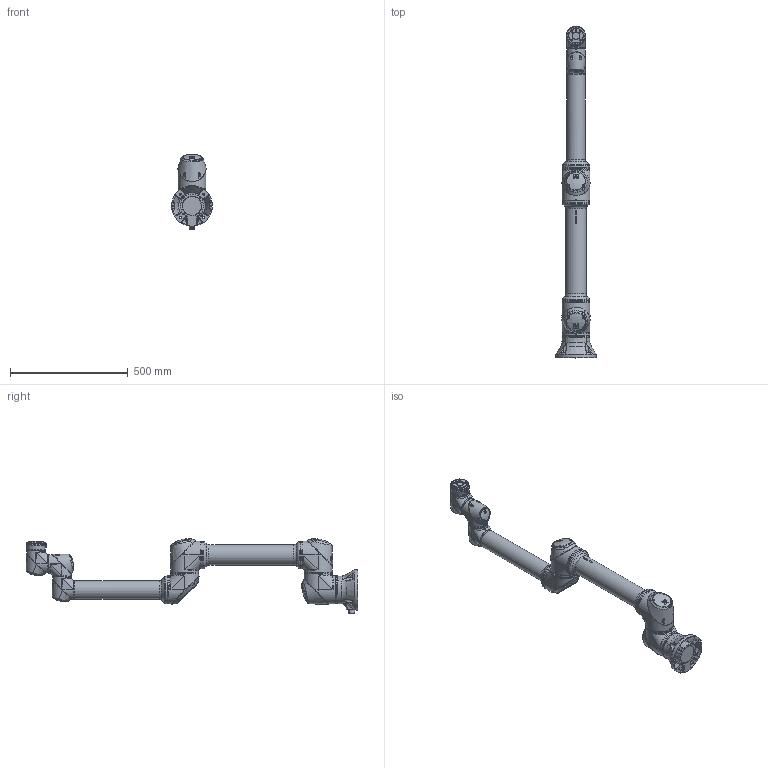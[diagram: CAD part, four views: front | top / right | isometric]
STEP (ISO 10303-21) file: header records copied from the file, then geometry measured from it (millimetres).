
FILE_DESCRIPTION(/* description */ (''),/* implementation_level */ '2;1');
FILE_NAME(/* name */ 'RB3-1200E.stp',/* time_stamp */ '2023-01-25T18:36:43+09:00',/* author */ ('ajm08'),/* organization */ (''),/* preprocessor_version */ 'ST-DEVELOPER v19.2',/* originating_system */ 'Autodesk Inventor 2023',/* authorisation */ '');
FILE_SCHEMA (('AUTOMOTIVE_DESIGN { 1 0 10303 214 3 1 1 }'));
Length unit declared in the file: millimetre
Products named in the file (8): RB3-1200E; RB3-1200E_BASE; RB3-1200E_LINK1; RB3-1200E_LINK22; RB3-1200E_LINK3; RB3-1200E_LINK4; RB3-1200E_LINK5; RB3-1200E_LINK6
Assembly tree (7 placements, depth 2):
  RB3-1200E
    RB3-1200E_BASE
    RB3-1200E_LINK1
    RB3-1200E_LINK22
    RB3-1200E_LINK3
    RB3-1200E_LINK4
    RB3-1200E_LINK5
    RB3-1200E_LINK6
Bounding box: 172.86 x 1410.76 x 318.82 mm (x, y, z)
Volume: 14677204.3 mm3; surface area: 1043119.2 mm2
Topology: 29 solids, 33 shells, 2635 faces, 6776 edges, 4350 vertices
Faces by surface type: bspline 1162, plane 897, cylinder 327, cone 165, torus 56, sphere 28
Full cylindrical faces by diameter (mm): 1.5 x22, 1.7 x10, 2.5 x4, 3 x4, 3.1 x10, 3.4 x4, 4 x1, 4.5 x16, 5 x2, 5.1 x12, 5.6 x4, 6 x5, 6.647 x2, 8.5 x4, 10 x2, 11.459 x2, 14 x2, 14.5 x1, 16 x1, 17.5 x1, 31.53 x1, 62.95 x1, 70 x4, 71.5 x4, 72.6 x3, 78 x10, 86 x1, 88.5 x3, 110 x6, 111.5 x6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
Entity records: 293605 total; most frequent: CARTESIAN_POINT 233821, ORIENTED_EDGE 13370, DIRECTION 9203, EDGE_CURVE 6685, VERTEX_POINT 4350, AXIS2_PLACEMENT_3D 3515, EDGE_LOOP 2911, FACE_OUTER_BOUND 2635
